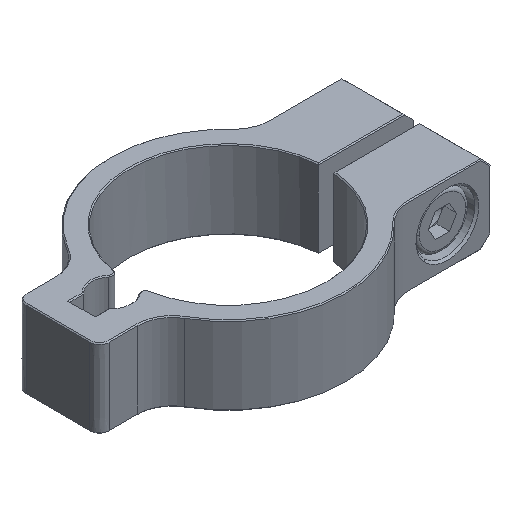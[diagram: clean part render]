
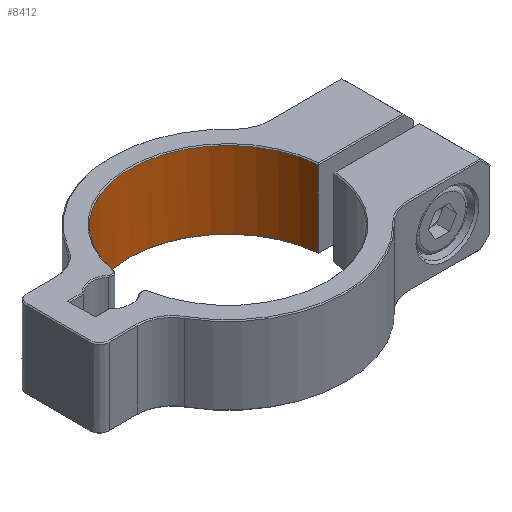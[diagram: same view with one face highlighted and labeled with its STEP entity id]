
A CAD part, isometric view. The second image highlights one B-rep face of the part: STEP entity #8412.
In plain terms, the highlighted cylindrical face has radius 10 mm (diameter 20 mm), a partial arc.
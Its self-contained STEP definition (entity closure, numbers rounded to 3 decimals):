
#124 = ORIENTED_EDGE ( 'NONE', *, *, #13124, .T. ) ;
#353 = CYLINDRICAL_SURFACE ( 'NONE', #12068, 10. ) ;
#465 = LINE ( 'NONE', #4983, #10945 ) ;
#528 = EDGE_LOOP ( 'NONE', ( #124, #5184, #3715, #9297, #2253 ) ) ;
#834 = DIRECTION ( 'NONE',  ( 0., 0., 1. ) ) ;
#1170 = DIRECTION ( 'NONE',  ( 0., 0., 1. ) ) ;
#1364 = CARTESIAN_POINT ( 'NONE',  ( -19.273, 60., -35.375 ) ) ;
#1428 = EDGE_CURVE ( 'NONE', #11233, #8344, #8531, .T. ) ;
#1588 = AXIS2_PLACEMENT_3D ( 'NONE', #3793, #11148, #4839 ) ;
#2253 = ORIENTED_EDGE ( 'NONE', *, *, #6737, .T. ) ;
#2349 = AXIS2_PLACEMENT_3D ( 'NONE', #13081, #1170, #3274 ) ;
#2431 = DIRECTION ( 'NONE',  ( 0., -1., 0. ) ) ;
#2961 = CARTESIAN_POINT ( 'NONE',  ( -9.301, 60.75, -35.375 ) ) ;
#3274 = DIRECTION ( 'NONE',  ( 0., -1., 0. ) ) ;
#3335 = AXIS2_PLACEMENT_3D ( 'NONE', #1364, #8688, #2431 ) ;
#3715 = ORIENTED_EDGE ( 'NONE', *, *, #8532, .T. ) ;
#3793 = CARTESIAN_POINT ( 'NONE',  ( -19.273, 60., -35.375 ) ) ;
#4839 = DIRECTION ( 'NONE',  ( 0., -1., 0. ) ) ;
#4983 = CARTESIAN_POINT ( 'NONE',  ( -9.301, 60.75, -35.975 ) ) ;
#5141 = DIRECTION ( 'NONE',  ( 0., 0., -1. ) ) ;
#5171 = CIRCLE ( 'NONE', #3335, 10. ) ;
#5184 = ORIENTED_EDGE ( 'NONE', *, *, #1428, .T. ) ;
#6045 = VECTOR ( 'NONE', #9561, 1000. ) ;
#6396 = VERTEX_POINT ( 'NONE', #7754 ) ;
#6737 = EDGE_CURVE ( 'NONE', #9262, #11833, #10871, .T. ) ;
#7754 = CARTESIAN_POINT ( 'NONE',  ( -29.102, 61.843, -35.374 ) ) ;
#8344 = VERTEX_POINT ( 'NONE', #9181 ) ;
#8412 = ADVANCED_FACE ( 'NONE', ( #9672 ), #353, .F. ) ;
#8491 = CARTESIAN_POINT ( 'NONE',  ( -29.102, 61.843, -26.974 ) ) ;
#8531 = CIRCLE ( 'NONE', #2349, 10. ) ;
#8532 = EDGE_CURVE ( 'NONE', #8344, #6396, #11666, .T. ) ;
#8688 = DIRECTION ( 'NONE',  ( 0., 0., -1. ) ) ;
#9181 = CARTESIAN_POINT ( 'NONE',  ( -29.102, 61.843, -27.574 ) ) ;
#9262 = VERTEX_POINT ( 'NONE', #12035 ) ;
#9297 = ORIENTED_EDGE ( 'NONE', *, *, #11192, .T. ) ;
#9326 = CARTESIAN_POINT ( 'NONE',  ( -19.273, 60., -26.975 ) ) ;
#9374 = DIRECTION ( 'NONE',  ( 0., -1., 0. ) ) ;
#9561 = DIRECTION ( 'NONE',  ( 0., 0., -1. ) ) ;
#9672 = FACE_OUTER_BOUND ( 'NONE', #528, .T. ) ;
#9844 = CARTESIAN_POINT ( 'NONE',  ( -9.301, 60.75, -27.575 ) ) ;
#10871 = CIRCLE ( 'NONE', #1588, 10. ) ;
#10945 = VECTOR ( 'NONE', #834, 1000. ) ;
#11148 = DIRECTION ( 'NONE',  ( 0., 0., -1. ) ) ;
#11192 = EDGE_CURVE ( 'NONE', #6396, #9262, #5171, .T. ) ;
#11233 = VERTEX_POINT ( 'NONE', #9844 ) ;
#11666 = LINE ( 'NONE', #8491, #6045 ) ;
#11833 = VERTEX_POINT ( 'NONE', #2961 ) ;
#12035 = CARTESIAN_POINT ( 'NONE',  ( -19.273, 70., -35.374 ) ) ;
#12068 = AXIS2_PLACEMENT_3D ( 'NONE', #9326, #5141, #9374 ) ;
#13081 = CARTESIAN_POINT ( 'NONE',  ( -19.273, 60., -27.575 ) ) ;
#13124 = EDGE_CURVE ( 'NONE', #11833, #11233, #465, .T. ) ;
